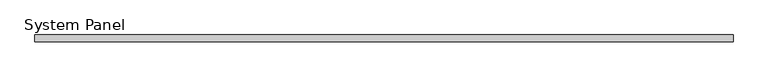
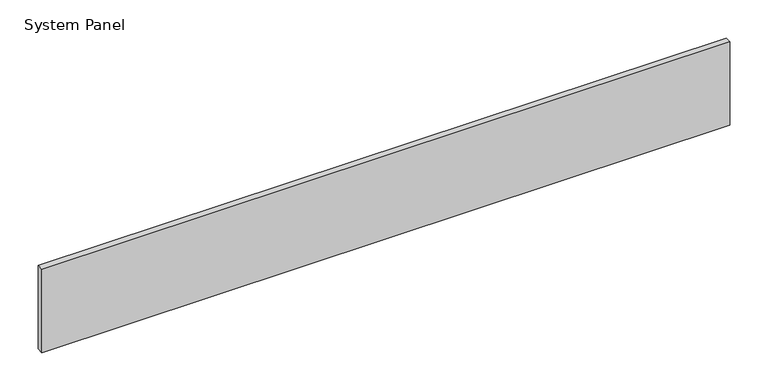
"""IFC4 building model written with IfcOpenShell, lengths in millimetres: plate geometry, System Panel : VACÍO."""

from ifc_helpers import new_model, si_unit, origin, origin_with_axes, place, context, project, spatial, polyline, outline, extrude, source, transform, mapped, element, save


def system_panel_f5a5ada1(model_context):
    return source(origin(), model_context, "Body", "SweptSolid", [
        extrude(outline(polyline([(522.1249907, -5.0), (-522.1249907, -5.0), (-522.1249907, 5.0), (522.1249907, 5.0), (522.1249907, -5.0)])), origin_with_axes(), (0.0, 0.0, 1.0), 134.0),
    ])


if __name__ == "__main__":
    model = new_model("IFC4")
    model_context = context("Model", 3, world=origin())
    ifc_project = project(units=[si_unit("LENGTHUNIT", "METRE", prefix="MILLI")], contexts=[model_context])
    site = spatial("IfcSite", under=ifc_project)
    building = spatial("IfcBuilding", under=site)
    placement = place(None, origin())
    system_panel_shape = system_panel_f5a5ada1(model_context)
    element("IfcPlate", 1, ObjectType="System Panel : VACÍO", at=placement, inside=building, context=model_context, shape_type="MappedRepresentation", body=[
        mapped(system_panel_shape, transform((0.0, 0.0, 0.0), x_axis=(1.0, 0.0, 0.0), y_axis=(0.0, 1.0, 0.0), z_axis=(0.0, 0.0, 1.0))),
    ])
    save(model, "model.ifc")
